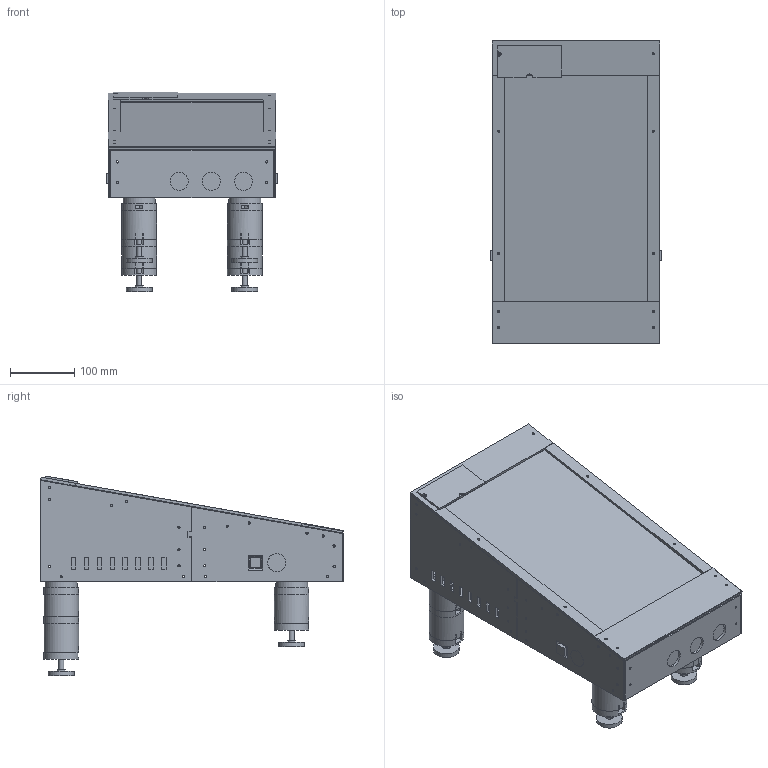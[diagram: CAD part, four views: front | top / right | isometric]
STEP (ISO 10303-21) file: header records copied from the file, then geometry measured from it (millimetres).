
FILE_DESCRIPTION(('Open CASCADE Model'),'2;1');
FILE_NAME('Open CASCADE Shape Model','2026-11-12T16:04:54',('Author'),( 'Open CASCADE'),'Open CASCADE STEP processor 7.8','Open CASCADE 7.8' ,'Unknown');
FILE_SCHEMA(('AUTOMOTIVE_DESIGN { 1 0 10303 214 1 1 1 1 }'));
Length unit declared in the file: millimetre
Products named in the file (97): Mini_VPin_Prototype_V1_16; left_front_wall; left_rear_wall; right_front_wall; right_rear_wall; front_button_panel; rear_vent_panel; corner_left_front_24; corner_left_front_56; corner_left_rear_24; corner_left_rear_128; corner_right_front_24; corner_right_front_56; corner_right_rear_24; corner_right_rear_128; splice_left; splice_right; floor_block_left_28; floor_block_left_218; floor_block_left_252; floor_block_left_442; floor_block_right_28; floor_block_right_218; floor_block_right_252; floor_block_right_442; bottom_front; bottom_rear; foot_backing_left_front; foot_receiver_left_front; foot_m8_terminal_core_left_front_55mm; foot_m8_terminal_sleeve_left_front_55mm; foot_m8_terminal_bolt_key_left_front_55mm; REFERENCE_swivel_rubber_pad_left_front; foot_backing_left_rear; foot_receiver_left_rear; foot_twist_core_left_rear_1_45mm; foot_lock_sleeve_left_rear_1_45mm; foot_bolt_key_left_rear_1_45mm; foot_m8_terminal_core_left_rear_55mm; foot_m8_terminal_sleeve_left_rear_55mm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
Assembly tree (96 placements, depth 2):
  Mini_VPin_Prototype_V1_16
    left_front_wall
    left_rear_wall
    right_front_wall
    right_rear_wall
    front_button_panel
    rear_vent_panel
    corner_left_front_24
    corner_left_front_56
    corner_left_rear_24
    corner_left_rear_128
    corner_right_front_24
    corner_right_front_56
    corner_right_rear_24
    corner_right_rear_128
    splice_left
    splice_right
    floor_block_left_28
    floor_block_left_218
    floor_block_left_252
    floor_block_left_442
    floor_block_right_28
    floor_block_right_218
    floor_block_right_252
    floor_block_right_442
    bottom_front
    bottom_rear
    foot_backing_left_front
    foot_receiver_left_front
    foot_m8_terminal_core_left_front_55mm
    foot_m8_terminal_sleeve_left_front_55mm
    foot_m8_terminal_bolt_key_left_front_55mm
    REFERENCE_swivel_rubber_pad_left_front
    foot_backing_left_rear
    foot_receiver_left_rear
    foot_twist_core_left_rear_1_45mm
    foot_lock_sleeve_left_rear_1_45mm
    foot_bolt_key_left_rear_1_45mm
    foot_m8_terminal_core_left_rear_55mm
    foot_m8_terminal_sleeve_left_rear_55mm
    foot_m8_terminal_bolt_key_left_rear_55mm
    REFERENCE_swivel_rubber_pad_left_rear
    foot_backing_right_front
    foot_receiver_right_front
    foot_m8_terminal_core_right_front_55mm
    foot_m8_terminal_sleeve_right_front_55mm
    foot_m8_terminal_bolt_key_right_front_55mm
    REFERENCE_swivel_rubber_pad_right_front
    foot_backing_right_rear
    foot_receiver_right_rear
    foot_twist_core_right_rear_1_45mm
    foot_lock_sleeve_right_rear_1_45mm
    foot_bolt_key_right_rear_1_45mm
    foot_m8_terminal_core_right_rear_55mm
    foot_m8_terminal_sleeve_right_rear_55mm
    foot_m8_terminal_bolt_key_right_rear_55mm
    REFERENCE_swivel_rubber_pad_right_rear
    top_block_left_25
    top_block_left_50
    top_block_left_140
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Bounding box: 267 x 470.54 x 310.59 mm (x, y, z)
Volume: 8189694.4 mm3; surface area: 1663053 mm2
Topology: 96 solids, 96 shells, 2137 faces, 5333 edges, 3536 vertices
Faces by surface type: plane 1766, cylinder 345, extrusion 20, bspline 4, cone 2
Full cylindrical faces by diameter (mm): 3.4 x158, 4.5 x52, 6 x2, 6.4 x2, 6.7 x14, 8 x4, 8.4 x16, 8.7 x8, 10 x16, 12 x4, 27.8 x2, 28 x5, 40 x6, 50 x8, 54 x16
Entity records: 144961 total; most frequent: CARTESIAN_POINT 35292, DIRECTION 19125, VECTOR 12447, LINE 12427, ORIENTED_EDGE 10666, PCURVE 10666, DEFINITIONAL_REPRESENTATION 10666, EDGE_CURVE 5333
